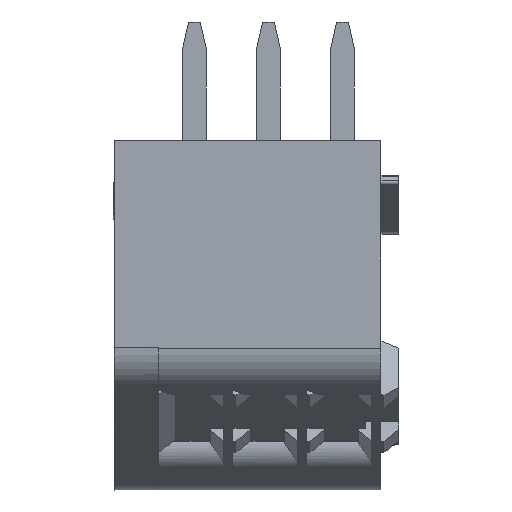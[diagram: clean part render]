
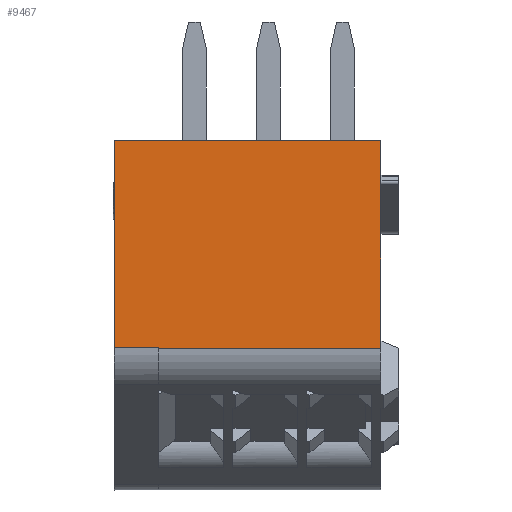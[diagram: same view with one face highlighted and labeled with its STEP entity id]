
A CAD part, left-side view. The second image highlights one B-rep face of the part: STEP entity #9467.
In plain terms, the highlighted planar face has unit normal (-1, 0, 0).
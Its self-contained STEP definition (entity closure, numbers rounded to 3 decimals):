
#915=DIRECTION('',(0.,1.,0.));
#916=VECTOR('',#915,9.);
#917=CARTESIAN_POINT('',(-0.12,-5.,0.2));
#918=LINE('',#917,#916);
#1193=DIRECTION('',(0.,0.,1.));
#1194=VECTOR('',#1193,7.02);
#1195=CARTESIAN_POINT('',(-0.12,-5.,-6.82));
#1196=LINE('',#1195,#1194);
#1505=DIRECTION('',(0.,0.,-1.));
#1506=VECTOR('',#1505,7.001);
#1507=CARTESIAN_POINT('',(-0.12,4.,0.2));
#1508=LINE('',#1507,#1506);
#1641=DIRECTION('',(0.,-1.,0.));
#1642=VECTOR('',#1641,7.5);
#1643=CARTESIAN_POINT('',(-0.12,2.5,-6.82));
#1644=LINE('',#1643,#1642);
#1732=DIRECTION('',(0.,-1.,0.));
#1733=VECTOR('',#1732,1.5);
#1734=CARTESIAN_POINT('',(-0.12,4.,-6.801));
#1735=LINE('',#1734,#1733);
#1736=CARTESIAN_POINT('',(-0.12,2.5,-6.8));
#1737=CARTESIAN_POINT('',(-0.12,2.5,-6.803));
#1738=CARTESIAN_POINT('',(-0.12,2.5,-6.808));
#1739=CARTESIAN_POINT('',(-0.12,2.5,-6.814));
#1740=CARTESIAN_POINT('',(-0.12,2.5,-6.818));
#1741=CARTESIAN_POINT('',(-0.12,2.5,-6.82));
#5607=CARTESIAN_POINT('',(-0.12,-5.,0.2));
#5608=VERTEX_POINT('',#5607);
#5609=CARTESIAN_POINT('',(-0.12,4.,0.2));
#5610=VERTEX_POINT('',#5609);
#5749=CARTESIAN_POINT('',(-0.12,-5.,-6.82));
#5750=VERTEX_POINT('',#5749);
#5809=CARTESIAN_POINT('',(-0.12,4.,-6.801));
#5810=VERTEX_POINT('',#5809);
#5867=CARTESIAN_POINT('',(-0.12,2.5,-6.82));
#5868=VERTEX_POINT('',#5867);
#5869=VERTEX_POINT('',#1736);
#9451=CARTESIAN_POINT('',(-0.12,2.5,-6.907));
#9452=DIRECTION('',(-1.,0.,0.));
#9453=DIRECTION('',(0.,0.,1.));
#9454=AXIS2_PLACEMENT_3D('',#9451,#9452,#9453);
#9455=PLANE('',#9454);
#9456=ORIENTED_EDGE('',*,*,#8916,.F.);
#9457=ORIENTED_EDGE('',*,*,#9135,.F.);
#9459=ORIENTED_EDGE('',*,*,#9458,.F.);
#9461=ORIENTED_EDGE('',*,*,#9460,.F.);
#9463=ORIENTED_EDGE('',*,*,#9462,.F.);
#9464=ORIENTED_EDGE('',*,*,#9378,.F.);
#9465=EDGE_LOOP('',(#9456,#9457,#9459,#9461,#9463,#9464));
#9466=FACE_OUTER_BOUND('',#9465,.F.);
#9467=ADVANCED_FACE('',(#9466),#9455,.T.);
#1742=B_SPLINE_CURVE_WITH_KNOTS('',3,(#1736,#1737,#1738,#1739,#1740,#1741),
.UNSPECIFIED.,.F.,.F.,(4,1,1,4),(0.,0.333,0.667,1.),
.UNSPECIFIED.);
#8916=EDGE_CURVE('',#5608,#5610,#918,.T.);
#9135=EDGE_CURVE('',#5750,#5608,#1196,.T.);
#9378=EDGE_CURVE('',#5610,#5810,#1508,.T.);
#9458=EDGE_CURVE('',#5868,#5750,#1644,.T.);
#9460=EDGE_CURVE('',#5869,#5868,#1742,.T.);
#9462=EDGE_CURVE('',#5810,#5869,#1735,.T.);
